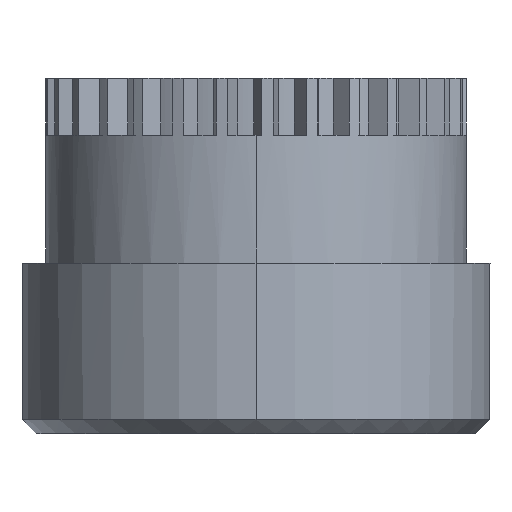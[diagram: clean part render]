
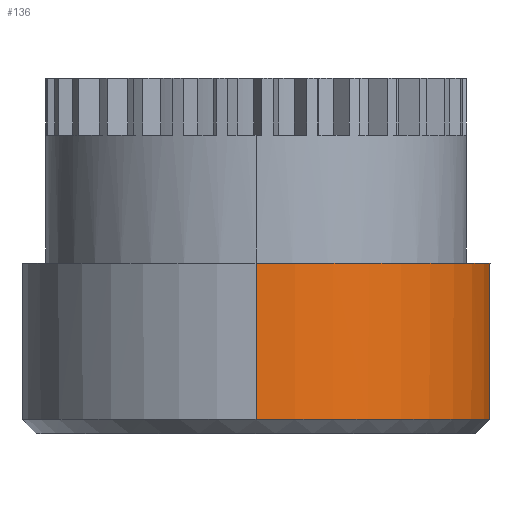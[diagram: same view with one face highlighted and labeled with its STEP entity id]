
A CAD part, left-side view. The second image highlights one B-rep face of the part: STEP entity #136.
In plain terms, the highlighted cylindrical face has radius 16.5 mm (diameter 33 mm), a partial arc.
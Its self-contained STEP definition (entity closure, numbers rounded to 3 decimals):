
#136 = ADVANCED_FACE ( 'NONE', ( #4077 ), #5692, .T. ) ;
#228 = CARTESIAN_POINT ( 'NONE',  ( -48.06, -23.244, 1012. ) ) ;
#316 = CARTESIAN_POINT ( 'NONE',  ( -48.213, -23.349, 1010.672 ) ) ;
#372 = LINE ( 'NONE', #7332, #8599 ) ;
#1233 = EDGE_CURVE ( 'NONE', #6455, #6890, #4468, .T. ) ;
#1256 = CARTESIAN_POINT ( 'NONE',  ( -57.412, -9.65, 1001. ) ) ;
#1995 = CARTESIAN_POINT ( 'NONE',  ( -57.412, -9.65, 1002. ) ) ;
#2033 = CARTESIAN_POINT ( 'NONE',  ( -73.912, -9.65, 1002. ) ) ;
#2329 = CARTESIAN_POINT ( 'NONE',  ( -48.213, -23.349, 1010. ) ) ;
#2804 = DIRECTION ( 'NONE',  ( -1., 0., 0. ) ) ;
#2886 = ORIENTED_EDGE ( 'NONE', *, *, #1233, .T. ) ;
#2980 = VECTOR ( 'NONE', #5078, 1000. ) ;
#3025 = VERTEX_POINT ( 'NONE', #228 ) ;
#3443 = AXIS2_PLACEMENT_3D ( 'NONE', #1256, #4353, #4210 ) ;
#4077 = FACE_OUTER_BOUND ( 'NONE', #9206, .T. ) ;
#4178 = DIRECTION ( 'NONE',  ( 0., 0., -1. ) ) ;
#4182 = CARTESIAN_POINT ( 'NONE',  ( -48.161, -23.314, 1011.339 ) ) ;
#4210 = DIRECTION ( 'NONE',  ( 1., 0., 0. ) ) ;
#4353 = DIRECTION ( 'NONE',  ( 0., 0., 1. ) ) ;
#4468 = LINE ( 'NONE', #2033, #2980 ) ;
#4562 = DIRECTION ( 'NONE',  ( 0., 0., 1. ) ) ;
#4603 = EDGE_CURVE ( 'NONE', #7212, #3025, #9735, .T. ) ;
#4694 = CARTESIAN_POINT ( 'NONE',  ( -48.213, -23.349, 1001. ) ) ;
#5028 = AXIS2_PLACEMENT_3D ( 'NONE', #9278, #4562, #8363 ) ;
#5078 = DIRECTION ( 'NONE',  ( 0., 0., -1. ) ) ;
#5213 = ORIENTED_EDGE ( 'NONE', *, *, #7617, .T. ) ;
#5642 = CARTESIAN_POINT ( 'NONE',  ( -48.06, -23.244, 1012. ) ) ;
#5692 = CYLINDRICAL_SURFACE ( 'NONE', #10059, 16.5 ) ;
#5695 = CARTESIAN_POINT ( 'NONE',  ( -48.213, -23.349, 1010. ) ) ;
#5741 = ORIENTED_EDGE ( 'NONE', *, *, #4603, .T. ) ;
#6455 = VERTEX_POINT ( 'NONE', #7929 ) ;
#6695 = CARTESIAN_POINT ( 'NONE',  ( -73.912, -9.65, 1001. ) ) ;
#6890 = VERTEX_POINT ( 'NONE', #6695 ) ;
#7093 = EDGE_CURVE ( 'NONE', #6455, #3025, #9407, .T. ) ;
#7212 = VERTEX_POINT ( 'NONE', #2329 ) ;
#7283 = DIRECTION ( 'NONE',  ( 0., 0., 1. ) ) ;
#7332 = CARTESIAN_POINT ( 'NONE',  ( -48.213, -23.349, 1002. ) ) ;
#7403 = VERTEX_POINT ( 'NONE', #4694 ) ;
#7617 = EDGE_CURVE ( 'NONE', #7403, #7212, #372, .T. ) ;
#7821 = CIRCLE ( 'NONE', #3443, 16.5 ) ;
#7929 = CARTESIAN_POINT ( 'NONE',  ( -73.912, -9.65, 1012. ) ) ;
#8024 = ORIENTED_EDGE ( 'NONE', *, *, #9078, .T. ) ;
#8363 = DIRECTION ( 'NONE',  ( 1., 0., 0. ) ) ;
#8599 = VECTOR ( 'NONE', #7283, 1000. ) ;
#8784 = ORIENTED_EDGE ( 'NONE', *, *, #7093, .F. ) ;
#9078 = EDGE_CURVE ( 'NONE', #6890, #7403, #7821, .T. ) ;
#9206 = EDGE_LOOP ( 'NONE', ( #8784, #2886, #8024, #5213, #5741 ) ) ;
#9278 = CARTESIAN_POINT ( 'NONE',  ( -57.412, -9.65, 1012. ) ) ;
#9407 = CIRCLE ( 'NONE', #5028, 16.5 ) ;
#9735 = B_SPLINE_CURVE_WITH_KNOTS ( 'NONE', 3,
 ( #5695, #316, #4182, #5642 ),
 .UNSPECIFIED., .F., .F.,
 ( 4, 4 ),
 ( 0., 0.002 ),
 .UNSPECIFIED. ) ;
#10059 = AXIS2_PLACEMENT_3D ( 'NONE', #1995, #4178, #2804 ) ;
